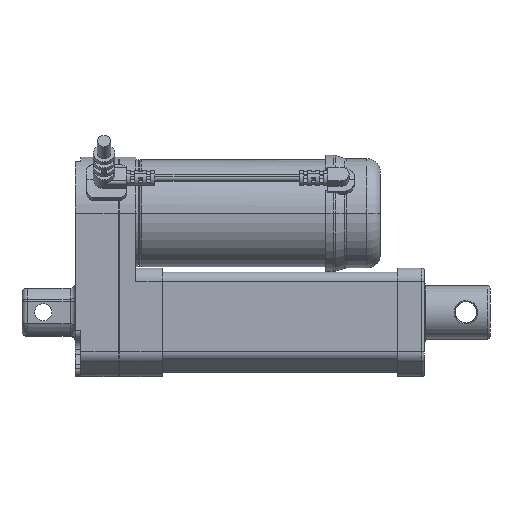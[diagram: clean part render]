
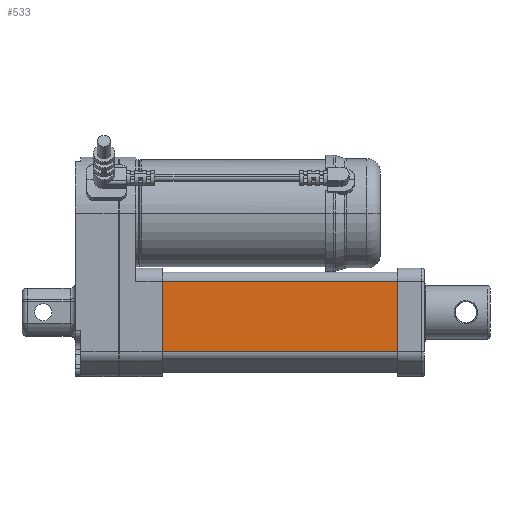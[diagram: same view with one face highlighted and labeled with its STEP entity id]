
A CAD part, top view. The second image highlights one B-rep face of the part: STEP entity #533.
In plain terms, the highlighted planar face has unit normal (0, 0, 1).
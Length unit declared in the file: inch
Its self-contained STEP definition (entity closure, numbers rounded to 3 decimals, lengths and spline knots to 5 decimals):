
#533=ADVANCED_FACE('',(#1508),#1509,.T.);
#1508=FACE_OUTER_BOUND('',#3014,.T.);
#1509=PLANE('',#3015);
#3014=EDGE_LOOP('',(#4701,#4702,#4703,#4704));
#3015=AXIS2_PLACEMENT_3D('',#4705,#4706,#4707);
#4701=ORIENTED_EDGE('',*,*,#8973,.F.);
#4702=ORIENTED_EDGE('',*,*,#8974,.F.);
#4703=ORIENTED_EDGE('',*,*,#8975,.T.);
#4704=ORIENTED_EDGE('',*,*,#8976,.T.);
#4705=CARTESIAN_POINT('',(4.74409,-0.5801,0.76772));
#4706=DIRECTION('',(0.0,-0.0,1.0));
#4707=DIRECTION('',(0.0,1.0,0.0));
#8973=EDGE_CURVE('',#10748,#10749,#10750,.T.);
#8974=EDGE_CURVE('',#10751,#10748,#10752,.T.);
#8975=EDGE_CURVE('',#10751,#10753,#10754,.T.);
#8976=EDGE_CURVE('',#10753,#10749,#10755,.T.);
#10748=VERTEX_POINT('',#13382);
#10749=VERTEX_POINT('',#13383);
#10750=LINE('',#13384,#13385);
#10751=VERTEX_POINT('',#13386);
#10752=LINE('',#13387,#13388);
#10753=VERTEX_POINT('',#13389);
#10754=LINE('',#13390,#13391);
#10755=LINE('',#13392,#13393);
#13382=CARTESIAN_POINT('',(1.27953,-0.5801,0.76772));
#13383=CARTESIAN_POINT('',(1.27953,0.45276,0.76772));
#13384=CARTESIAN_POINT('',(1.27953,0.45276,0.76772));
#13385=VECTOR('',#16747,39.37008);
#13386=CARTESIAN_POINT('',(4.74409,-0.5801,0.76772));
#13387=CARTESIAN_POINT('',(4.74409,-0.5801,0.76772));
#13388=VECTOR('',#16748,39.37008);
#13389=CARTESIAN_POINT('',(4.74409,0.45276,0.76772));
#13390=CARTESIAN_POINT('',(4.74409,-0.5801,0.76772));
#13391=VECTOR('',#16749,39.37008);
#13392=CARTESIAN_POINT('',(4.74409,0.45276,0.76772));
#13393=VECTOR('',#16750,39.37008);
#16747=DIRECTION('',(0.0,1.0,0.0));
#16748=DIRECTION('',(-1.0,0.0,0.0));
#16749=DIRECTION('',(0.0,1.0,0.0));
#16750=DIRECTION('',(-1.0,0.0,0.0));
